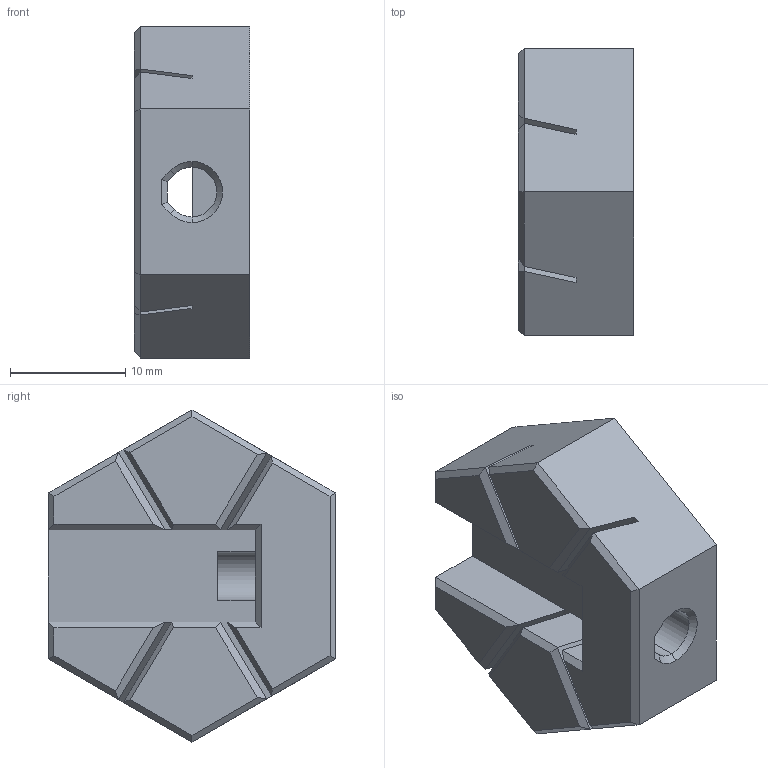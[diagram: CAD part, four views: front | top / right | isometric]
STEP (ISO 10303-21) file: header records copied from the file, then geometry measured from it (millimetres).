
FILE_DESCRIPTION (( 'STEP AP214' ), '1' );
FILE_NAME ('Bondtech PTFE-cutter_60-Degree-Chamfer.STEP', '2021-03-12T12:24:41', ( '' ), ( '' ), 'SwSTEP 2.0', 'SolidWorks 2020', '' );
FILE_SCHEMA (( 'AUTOMOTIVE_DESIGN' ));
Length unit declared in the file: millimetre
Products named in the file (1): Bondtech PTFE-cutter_60-Degree-Chamfer
Bounding box: 10 x 25 x 28.87 mm (x, y, z)
Volume: 4464.3 mm3; surface area: 2459.7 mm2
Topology: 1 solids, 1 shells, 67 faces, 180 edges, 114 vertices
Faces by surface type: plane 61, cone 3, cylinder 3
Entity records: 2077 total; most frequent: CARTESIAN_POINT 362, ORIENTED_EDGE 360, DIRECTION 325, EDGE_CURVE 180, VECTOR 171, LINE 171, VERTEX_POINT 114, AXIS2_PLACEMENT_3D 77
